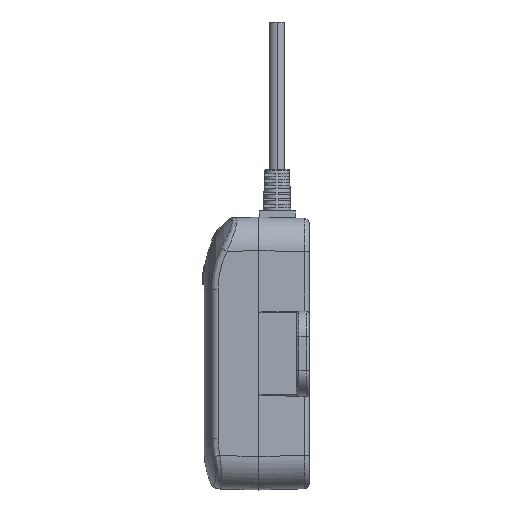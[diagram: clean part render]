
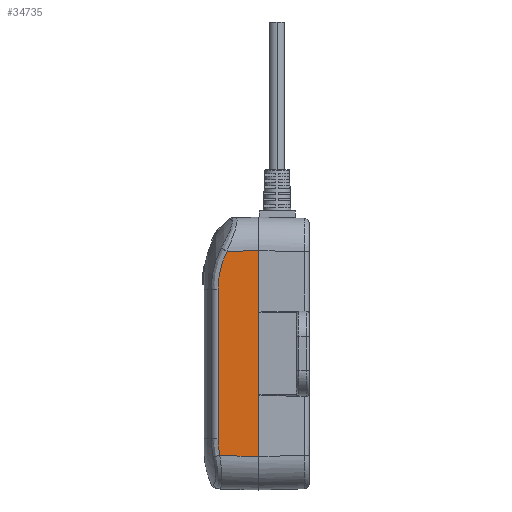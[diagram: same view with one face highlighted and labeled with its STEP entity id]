
A CAD part, left-side view. The second image highlights one B-rep face of the part: STEP entity #34735.
In plain terms, the highlighted planar face has unit normal (-1, 0.026, 0).
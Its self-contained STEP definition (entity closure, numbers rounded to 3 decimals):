
#43 = CARTESIAN_POINT ( 'NONE',  ( -97.672, 12.838, 38.872 ) ) ;
#248 = CARTESIAN_POINT ( 'NONE',  ( -97.683, 12.409, 39.687 ) ) ;
#986 = CARTESIAN_POINT ( 'NONE',  ( -97.598, 15.639, -37.478 ) ) ;
#1020 = ORIENTED_EDGE ( 'NONE', *, *, #19573, .T. ) ;
#1786 = B_SPLINE_CURVE_WITH_KNOTS ( 'NONE', 3,
 ( #248, #43, #3865, #20163, #29250, #38820, #35859, #32664, #32263 ),
 .UNSPECIFIED., .F., .F.,
 ( 4, 1, 1, 1, 1, 1, 4 ),
 ( 0., 0.181, 0.349, 0.512, 0.667, 0.825, 1. ),
 .UNSPECIFIED. ) ;
#2264 = LINE ( 'NONE', #15185, #3596 ) ;
#3596 = VECTOR ( 'NONE', #4812, 1000. ) ;
#3604 = LINE ( 'NONE', #23297, #17960 ) ;
#3865 = CARTESIAN_POINT ( 'NONE',  ( -97.652, 13.587, 37.265 ) ) ;
#4027 = ORIENTED_EDGE ( 'NONE', *, *, #16181, .T. ) ;
#4259 = EDGE_LOOP ( 'NONE', ( #4027, #10570, #1020, #29626, #23006, #41768 ) ) ;
#4408 = CARTESIAN_POINT ( 'NONE',  ( -97.683, 12.409, 39.687 ) ) ;
#4812 = DIRECTION ( 'NONE',  ( 0., 0., -1. ) ) ;
#5651 = CARTESIAN_POINT ( 'NONE',  ( -97.593, 15.85, 25. ) ) ;
#6531 = FACE_OUTER_BOUND ( 'NONE', #4259, .T. ) ;
#8169 = VERTEX_POINT ( 'NONE', #27597 ) ;
#10570 = ORIENTED_EDGE ( 'NONE', *, *, #24990, .T. ) ;
#12212 = CARTESIAN_POINT ( 'NONE',  ( -97.609, 15.221, -39.614 ) ) ;
#12318 = LINE ( 'NONE', #18901, #16033 ) ;
#12470 = DIRECTION ( 'NONE',  ( 0., 0., -1. ) ) ;
#13028 = LINE ( 'NONE', #29327, #23332 ) ;
#13691 = CARTESIAN_POINT ( 'NONE',  ( -97.593, 15.85, -33. ) ) ;
#15185 = CARTESIAN_POINT ( 'NONE',  ( -97.593, 15.85, 25. ) ) ;
#15306 = DIRECTION ( 'NONE',  ( 0., 0., 1. ) ) ;
#16033 = VECTOR ( 'NONE', #15306, 1000. ) ;
#16181 = EDGE_CURVE ( 'NONE', #8169, #41398, #30506, .T. ) ;
#16449 = AXIS2_PLACEMENT_3D ( 'NONE', #34948, #38344, #12470 ) ;
#16953 = DIRECTION ( 'NONE',  ( -0.026, -0.999, -0.026 ) ) ;
#17960 = VECTOR ( 'NONE', #16953, 1000. ) ;
#18901 = CARTESIAN_POINT ( 'NONE',  ( -98., 0.3, -40.004 ) ) ;
#19573 = EDGE_CURVE ( 'NONE', #36582, #22720, #12318, .T. ) ;
#20163 = CARTESIAN_POINT ( 'NONE',  ( -97.629, 14.458, 34.808 ) ) ;
#22720 = VERTEX_POINT ( 'NONE', #29493 ) ;
#23006 = ORIENTED_EDGE ( 'NONE', *, *, #38411, .T. ) ;
#23297 = CARTESIAN_POINT ( 'NONE',  ( -97.609, 15.221, -39.614 ) ) ;
#23332 = VECTOR ( 'NONE', #25546, 1000. ) ;
#23637 = CARTESIAN_POINT ( 'NONE',  ( -97.609, 15.221, -39.614 ) ) ;
#24425 = EDGE_CURVE ( 'NONE', #22720, #36454, #13028, .T. ) ;
#24990 = EDGE_CURVE ( 'NONE', #41398, #36582, #3604, .T. ) ;
#25546 = DIRECTION ( 'NONE',  ( 0.026, 0.999, -0.026 ) ) ;
#25999 = PLANE ( 'NONE',  #16449 ) ;
#27597 = CARTESIAN_POINT ( 'NONE',  ( -97.593, 15.85, -33. ) ) ;
#29250 = CARTESIAN_POINT ( 'NONE',  ( -97.613, 15.085, 32.417 ) ) ;
#29327 = CARTESIAN_POINT ( 'NONE',  ( -98., 0.3, 40.004 ) ) ;
#29493 = CARTESIAN_POINT ( 'NONE',  ( -98., 0.3, 40.004 ) ) ;
#29626 = ORIENTED_EDGE ( 'NONE', *, *, #24425, .T. ) ;
#30506 =( BOUNDED_CURVE ( )  B_SPLINE_CURVE ( 3, ( #13691, #36384, #986, #23637 ),
 .UNSPECIFIED., .F., .T. ) 
 B_SPLINE_CURVE_WITH_KNOTS ( ( 4, 4 ),
 ( 4.78, 5.073 ),
 .UNSPECIFIED. ) 
 CURVE ( )  GEOMETRIC_REPRESENTATION_ITEM ( )  RATIONAL_B_SPLINE_CURVE ( ( 1., 0.993, 0.993, 1. ) ) 
 REPRESENTATION_ITEM ( '' )  );
#30658 = CARTESIAN_POINT ( 'NONE',  ( -98., 0.3, -40.004 ) ) ;
#32263 = CARTESIAN_POINT ( 'NONE',  ( -97.593, 15.85, 25. ) ) ;
#32664 = CARTESIAN_POINT ( 'NONE',  ( -97.593, 15.85, 25.89 ) ) ;
#34288 = EDGE_CURVE ( 'NONE', #36503, #8169, #2264, .T. ) ;
#34735 = ADVANCED_FACE ( 'NONE', ( #6531 ), #25999, .F. ) ;
#34948 = CARTESIAN_POINT ( 'NONE',  ( -98., 0.3, 55.718 ) ) ;
#35859 = CARTESIAN_POINT ( 'NONE',  ( -97.594, 15.787, 27.577 ) ) ;
#36384 = CARTESIAN_POINT ( 'NONE',  ( -97.593, 15.85, -35.258 ) ) ;
#36454 = VERTEX_POINT ( 'NONE', #4408 ) ;
#36503 = VERTEX_POINT ( 'NONE', #5651 ) ;
#36582 = VERTEX_POINT ( 'NONE', #30658 ) ;
#38344 = DIRECTION ( 'NONE',  ( 1., -0.026, 0. ) ) ;
#38411 = EDGE_CURVE ( 'NONE', #36454, #36503, #1786, .T. ) ;
#38820 = CARTESIAN_POINT ( 'NONE',  ( -97.602, 15.518, 30.04 ) ) ;
#41398 = VERTEX_POINT ( 'NONE', #12212 ) ;
#41768 = ORIENTED_EDGE ( 'NONE', *, *, #34288, .T. ) ;
